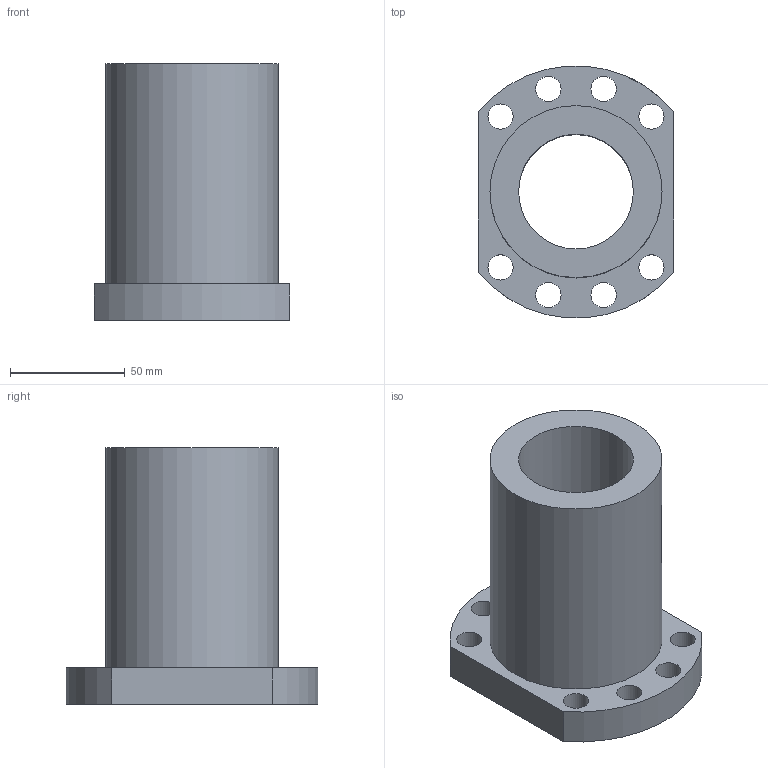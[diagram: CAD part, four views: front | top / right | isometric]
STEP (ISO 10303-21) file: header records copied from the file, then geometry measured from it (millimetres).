
FILE_DESCRIPTION(/* description */ (''),/* implementation_level */ '2;1');
FILE_NAME(/* name */ '50-10T6',/* time_stamp */ '2007-05-17T17:55:37+08:00',/* author */ (''),/* organization */ (''),/* preprocessor_version */ 'ST-DEVELOPER v9',/* originating_system */ 'UGS - NX 4.0',/* authorisation */ '');
FILE_SCHEMA (('CONFIG_CONTROL_DESIGN'));
Length unit declared in the file: millimetre
Products named in the file (1): 50-10T6
Bounding box: 85 x 109.65 x 112 mm (x, y, z)
Volume: 324024.2 mm3; surface area: 61698.2 mm2
Topology: 1 solids, 1 shells, 20 faces, 48 edges, 32 vertices
Faces by surface type: cylinder 14, plane 6
Full cylindrical faces by diameter (mm): 6 x1, 8 x1, 11 x8, 50 x1, 75 x1
Entity records: 774 total; most frequent: CARTESIAN_POINT 203, DIRECTION 102, ORIENTED_EDGE 72, EDGE_LOOP 54, AXIS2_PLACEMENT_3D 47, FACE_BOUND 46, EDGE_CURVE 36, VERTEX_POINT 32
